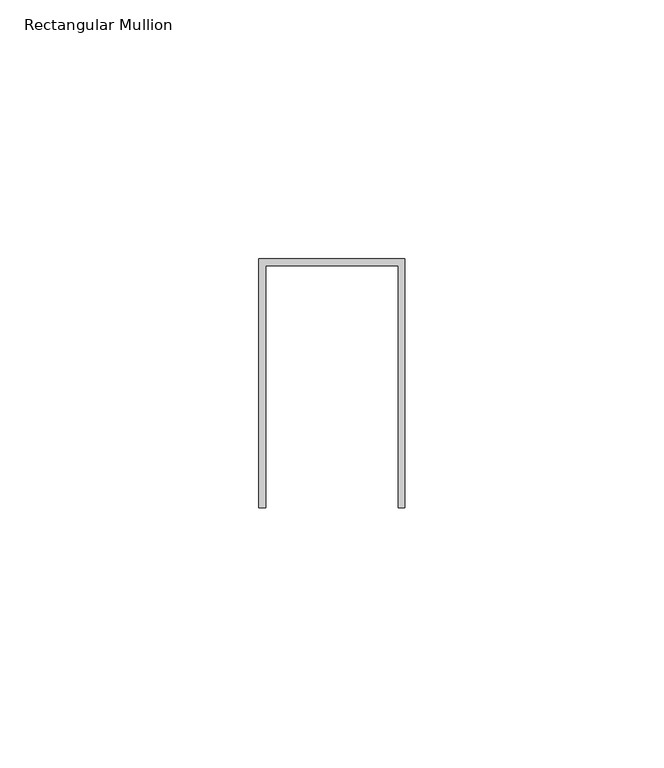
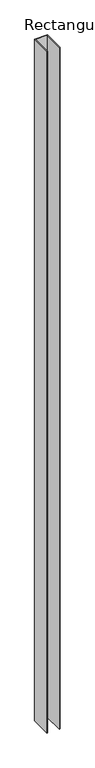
"""IFC4 building model written with IfcOpenShell, lengths in millimetres: member geometry, Rectangular Mullion : Danpal_TP_Interal-Ver-Mullion."""

import ifcopenshell
import ifcopenshell.guid

model = None  # the IFC model being written
_history = None  # IfcOwnerHistory: only IFC2X3 demands one
_inside = {}  # id of a spatial element -> (the spatial element, [elements in it])
_under = {}  # id of a project, library or spatial element -> (it, [spatial elements below it])
_declared = {}  # id of a project -> (the project, [libraries it declares])
_typed = {}  # id of a type object -> (the type object, [elements of that type])
_made_of = {}  # id of a material, layer set ... -> (it, [elements and type objects made of it])


def new_model(schema):
    """Start an empty IFC model of exactly this schema.

    Asked for "IFC4X3", IfcOpenShell would pick the latest addendum, in which some entities
    have other attributes; the version numbers below select the first issue.
    IFC2X3 requires an IfcOwnerHistory on every rooted entity: one is made here for all.
    """
    global model, _history
    if schema == "IFC4X3":
        model = ifcopenshell.file(schema_version=(4, 3, 0, 0))
    else:
        model = ifcopenshell.file(schema=schema)
    _inside.clear()
    _under.clear()
    _declared.clear()
    _typed.clear()
    _made_of.clear()
    _history = None
    if model.schema == "IFC2X3":
        org = make("IfcOrganization", Name="unknown")
        user = make(
            "IfcPersonAndOrganization",
            ThePerson=make("IfcPerson", FamilyName="unknown"),
            TheOrganization=org,
        )
        app = make(
            "IfcApplication",
            ApplicationDeveloper=org,
            Version="unknown",
            ApplicationFullName="unknown",
            ApplicationIdentifier="unknown",
        )
        _history = make(
            "IfcOwnerHistory",
            OwningUser=user,
            OwningApplication=app,
            ChangeAction="ADDED",
            CreationDate=0,
        )
    return model


def make(cls, **values):
    """One entity of the class cls with the attributes given. An attribute that is None is left unset."""
    return model.create_entity(
        cls, **{name: value for name, value in values.items() if value is not None}
    )


def rooted(cls, **values):
    """An entity with a GlobalId (a new one), such as an element, a storey or a relation."""
    return make(cls, GlobalId=ifcopenshell.guid.new(), OwnerHistory=_history, **values)


def si_unit(unit_type, name, prefix=None):
    """IfcSIUnit, for example si_unit("LENGTHUNIT", "METRE", prefix="MILLI")."""
    return make("IfcSIUnit", UnitType=unit_type, Prefix=prefix, Name=name)


def assignment(units):
    """IfcUnitAssignment: the units of a project."""
    return None if units is None else make("IfcUnitAssignment", Units=units)


def point(xyz):
    """IfcCartesianPoint."""
    return None if xyz is None else make("IfcCartesianPoint", Coordinates=xyz)


def direction(xyz):
    """IfcDirection."""
    return None if xyz is None else make("IfcDirection", DirectionRatios=xyz)


def frame(location, z_axis=None, x_axis=None):
    """IfcAxis2Placement3D, a coordinate frame: its origin and axes. An axis left out is left unset."""
    return make(
        "IfcAxis2Placement3D",
        Location=point(location),
        Axis=direction(z_axis),
        RefDirection=direction(x_axis),
    )


def origin():
    """The frame at (0, 0, 0) with its axes left unset."""
    return frame((0.0, 0.0, 0.0))


def place(relative_to, where):
    """IfcLocalPlacement: puts the frame where relative to a parent placement (None: the world)."""
    return make(
        "IfcLocalPlacement", PlacementRelTo=relative_to, RelativePlacement=where
    )


def context(
    kind, dimensions, precision=None, world=None, true_north=None, identifier=None
):
    """IfcGeometricRepresentationContext, for example the 3D "Model" context."""
    return make(
        "IfcGeometricRepresentationContext",
        ContextIdentifier=identifier,
        ContextType=kind,
        CoordinateSpaceDimension=dimensions,
        Precision=precision,
        WorldCoordinateSystem=world,
        TrueNorth=true_north,
    )


def project(units=None, contexts=None):
    """IfcProject with its units and contexts."""
    return rooted(
        "IfcProject",
        Name="project",
        RepresentationContexts=contexts,
        UnitsInContext=assignment(units),
    )


def spatial(cls, under=None, at=None, **own):
    """A site, building, storey or space (cls), placed at a placement, below another one or the project."""
    s = rooted(cls, ObjectPlacement=at, **own)
    if under is not None:
        _under.setdefault(under.id(), (under, []))[1].append(s)
    return s


def polyline(points):
    """IfcPolyline through the points."""
    return make("IfcPolyline", Points=[point(p) for p in points])


def outline(outer, holes=None, kind="AREA"):
    """IfcArbitraryClosedProfileDef: a profile drawn as a closed curve; with holes, ...WithVoids."""
    if holes is None:
        return make("IfcArbitraryClosedProfileDef", ProfileType=kind, OuterCurve=outer)
    return make(
        "IfcArbitraryProfileDefWithVoids",
        ProfileType=kind,
        OuterCurve=outer,
        InnerCurves=holes,
    )


def extrude(swept, where, along, depth):
    """IfcExtrudedAreaSolid: the profile swept, set in the frame where, extruded along a direction by depth."""
    return make(
        "IfcExtrudedAreaSolid",
        SweptArea=swept,
        Position=where,
        ExtrudedDirection=direction(along),
        Depth=depth,
    )


def shape(context_of_items, identifier, shape_type, items):
    """IfcShapeRepresentation: the items that make up one representation, for example the "Body"."""
    return make(
        "IfcShapeRepresentation",
        ContextOfItems=context_of_items,
        RepresentationIdentifier=identifier,
        RepresentationType=shape_type,
        Items=items,
    )


def source(mapping_origin, context_of_items, identifier, shape_type, items):
    """IfcRepresentationMap: a shape defined once, which mapped items show again and again."""
    return make(
        "IfcRepresentationMap",
        MappingOrigin=mapping_origin,
        MappedRepresentation=shape(context_of_items, identifier, shape_type, items),
    )


def transform(
    local_origin,
    x_axis=None,
    y_axis=None,
    z_axis=None,
    scale=None,
    scale2=None,
    scale3=None,
    uniform=True,
):
    """IfcCartesianTransformationOperator3D, or its non-uniform kind. x_axis, y_axis, z_axis: its Axis1, 2, 3."""
    if uniform:
        return make(
            "IfcCartesianTransformationOperator3D",
            Axis1=direction(x_axis),
            Axis2=direction(y_axis),
            LocalOrigin=point(local_origin),
            Scale=scale,
            Axis3=direction(z_axis),
        )
    return make(
        "IfcCartesianTransformationOperator3DnonUniform",
        Axis1=direction(x_axis),
        Axis2=direction(y_axis),
        LocalOrigin=point(local_origin),
        Scale=scale,
        Axis3=direction(z_axis),
        Scale2=scale2,
        Scale3=scale3,
    )


def mapped(mapping_source, mapping_target):
    """IfcMappedItem: shows the shape of a source again, moved by a transform."""
    return make(
        "IfcMappedItem", MappingSource=mapping_source, MappingTarget=mapping_target
    )


def made_of(thing, what):
    """Note that an element or type object is made of a material, layer set ...; save() writes the relation."""
    if what is not None:
        _made_of.setdefault(what.id(), (what, []))[1].append(thing)
    return thing


def element(
    cls,
    number,
    at=None,
    inside=None,
    cuts=None,
    type_object=None,
    material=None,
    context=None,
    identifier="Body",
    shape_type=None,
    held_by="IfcProductDefinitionShape",
    body=None,
    shapes=None,
    **own,
):
    """One element of the class cls, such as IfcWall. Its Tag is "e" and its number.

    at: its placement. inside: the storey or other place that contains it. cuts: it is an
    opening in that element (IfcRelVoidsElement). A single representation is given by context,
    identifier, shape_type and body (its items); several are given by shapes. held_by: the class
    of the entity that holds the representations. save() writes the other relations.
    """
    e = rooted(cls, Tag="e%d" % number, ObjectPlacement=at, **own)
    if body is not None:
        shapes = [shape(context, identifier, shape_type, body)]
    if shapes is not None:
        e.Representation = make(held_by, Representations=shapes)
    if inside is not None:
        _inside.setdefault(inside.id(), (inside, []))[1].append(e)
    if cuts is not None:
        rooted(
            "IfcRelVoidsElement", RelatingBuildingElement=cuts, RelatedOpeningElement=e
        )
    if type_object is not None:
        _typed.setdefault(type_object.id(), (type_object, []))[1].append(e)
    return made_of(e, material)


def aggregate(whole, parts):
    """IfcRelAggregates: a whole, such as a stair, and the parts it consists of."""
    return rooted("IfcRelAggregates", RelatingObject=whole, RelatedObjects=parts)


def save(model, path):
    """Write the relations noted so far, then the file.

    IfcRelAggregates (storeys below a building ...), IfcRelContainedInSpatialStructure (elements
    in a storey), IfcRelDefinesByType, IfcRelAssociatesMaterial and IfcRelDeclares: one each for
    every whole, place, type object, material and project.
    """
    for whole, parts in _under.values():
        aggregate(whole, parts)
    for where, things in _inside.values():
        rooted(
            "IfcRelContainedInSpatialStructure",
            RelatedElements=things,
            RelatingStructure=where,
        )
    for kind, things in _typed.values():
        rooted("IfcRelDefinesByType", RelatedObjects=things, RelatingType=kind)
    for what, things in _made_of.values():
        rooted("IfcRelAssociatesMaterial", RelatedObjects=things, RelatingMaterial=what)
    for by, libraries in _declared.values():
        rooted("IfcRelDeclares", RelatingContext=by, RelatedDefinitions=libraries)
    model.write(path)


def rectangular_mullion_0d2aa3bb(model_context):
    return source(origin(), model_context, "Body", "SweptSolid", [
        extrude(outline(polyline([(12.3125928, 62.8367315), (-13.3125928, 62.8367315), (-13.3125928, 16.0043433), (-14.6380334, 16.0043036), (-14.6380334, 64.1621721), (13.6380334, 64.1621721), (13.6380334, 16.0044958), (12.3125928, 16.0044958), (12.3125928, 62.8367315)])), frame((0.0, 0.0, -1603.9352814), z_axis=(0.0, 0.0, 1.0), x_axis=(1.0, 0.0, 0.0)), (0.0, 0.0, 1.0), 1603.9352814),
    ])


if __name__ == "__main__":
    model = new_model("IFC4")
    model_context = context("Model", 3, world=origin())
    ifc_project = project(units=[si_unit("LENGTHUNIT", "METRE", prefix="MILLI")], contexts=[model_context])
    site = spatial("IfcSite", under=ifc_project)
    building = spatial("IfcBuilding", under=site)
    placement = place(None, origin())
    rectangular_mullion_shape = rectangular_mullion_0d2aa3bb(model_context)
    element("IfcMember", 1, ObjectType="Rectangular Mullion : Danpal_TP_Interal-Ver-Mullion", at=placement, inside=building, context=model_context, shape_type="MappedRepresentation", body=[
        mapped(rectangular_mullion_shape, transform((0.0, 0.0, 0.0), x_axis=(1.0, 0.0, 0.0), y_axis=(0.0, 1.0, 0.0), z_axis=(0.0, 0.0, 1.0))),
    ])
    save(model, "model.ifc")
